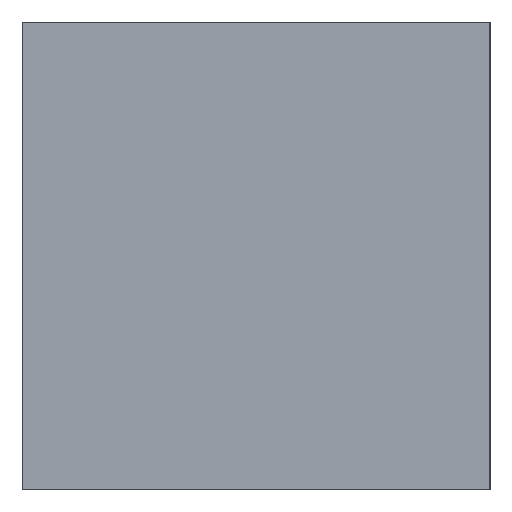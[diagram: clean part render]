
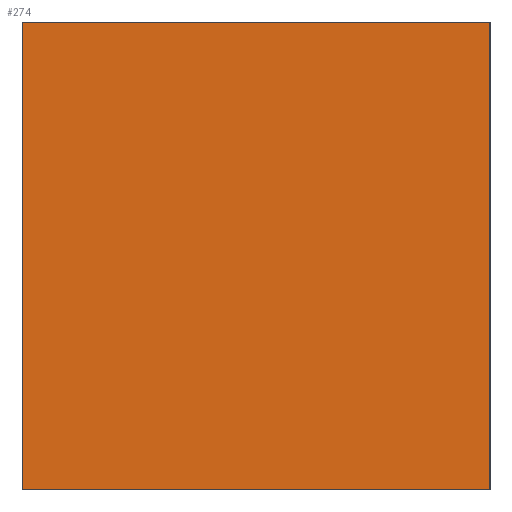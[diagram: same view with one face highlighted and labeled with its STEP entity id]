
A CAD part, left-side view. The second image highlights one B-rep face of the part: STEP entity #274.
In plain terms, the highlighted free-form (B-spline) face has degree [1, 1] with [2, 2] control points.
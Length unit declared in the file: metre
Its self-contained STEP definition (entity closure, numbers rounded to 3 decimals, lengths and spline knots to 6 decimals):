
#139 = CARTESIAN_POINT ('', (-5., -5., -5.));
#140 = VERTEX_POINT ('', #139);
#148 = CARTESIAN_POINT ('', (-5., 5., -5.));
#149 = VERTEX_POINT ('', #148);
#150 = CARTESIAN_POINT ('', (-5., 5., -5.));
#151 = CARTESIAN_POINT ('', (-5., -5., -5.));
#152 = B_SPLINE_CURVE_WITH_KNOTS ('', 1, (#150, #151), .UNSPECIFIED., .F., .U., (2, 2), (0., 1.), .UNSPECIFIED.);
#153 = EDGE_CURVE ('', #149, #140, #152, .T.);
#175 = CARTESIAN_POINT ('', (-5., -5., 5.));
#176 = VERTEX_POINT ('', #175);
#177 = CARTESIAN_POINT ('', (-5., 5., 5.));
#178 = VERTEX_POINT ('', #177);
#179 = CARTESIAN_POINT ('', (-5., -5., 5.));
#180 = CARTESIAN_POINT ('', (-5., 5., 5.));
#181 = B_SPLINE_CURVE_WITH_KNOTS ('', 1, (#179, #180), .UNSPECIFIED., .F., .U., (2, 2), (0., 1.), .UNSPECIFIED.);
#182 = EDGE_CURVE ('', #176, #178, #181, .T.);
#218 = CARTESIAN_POINT ('', (-5., -5., -5.));
#219 = CARTESIAN_POINT ('', (-5., -5., 5.));
#220 = B_SPLINE_CURVE_WITH_KNOTS ('', 1, (#218, #219), .UNSPECIFIED., .F., .U., (2, 2), (0., 1.), .UNSPECIFIED.);
#221 = EDGE_CURVE ('', #140, #176, #220, .T.);
#248 = CARTESIAN_POINT ('', (-5., 5., -5.));
#249 = CARTESIAN_POINT ('', (-5., 5., 5.));
#250 = B_SPLINE_CURVE_WITH_KNOTS ('', 1, (#248, #249), .UNSPECIFIED., .F., .U., (2, 2), (0., 1.), .UNSPECIFIED.);
#251 = EDGE_CURVE ('', #149, #178, #250, .T.);
#263 = ORIENTED_EDGE ('', *, *, #153, .T.);
#264 = ORIENTED_EDGE ('', *, *, #221, .T.);
#265 = ORIENTED_EDGE ('', *, *, #182, .T.);
#266 = ORIENTED_EDGE ('', *, *, #251, .F.);
#267 = EDGE_LOOP ('', (#263, #264, #265, #266));
#268 = FACE_OUTER_BOUND ('', #267, .T.);
#269 = CARTESIAN_POINT ('', (-5., -16.970563, 16.970563));
#270 = CARTESIAN_POINT ('', (-5., -16.970563, -16.970563));
#271 = CARTESIAN_POINT ('', (-5., 16.970563, 16.970563));
#272 = CARTESIAN_POINT ('', (-5., 16.970563, -16.970563));
#273 = B_SPLINE_SURFACE_WITH_KNOTS ('', 1, 1, ((#269, #270), (#271, #272)), .UNSPECIFIED., .F., .F., .U., (2, 2), (2, 2), (0., 1.), (0., 1.), .UNSPECIFIED.);
#274 = ADVANCED_FACE ('', (#268), #273, .T.);
